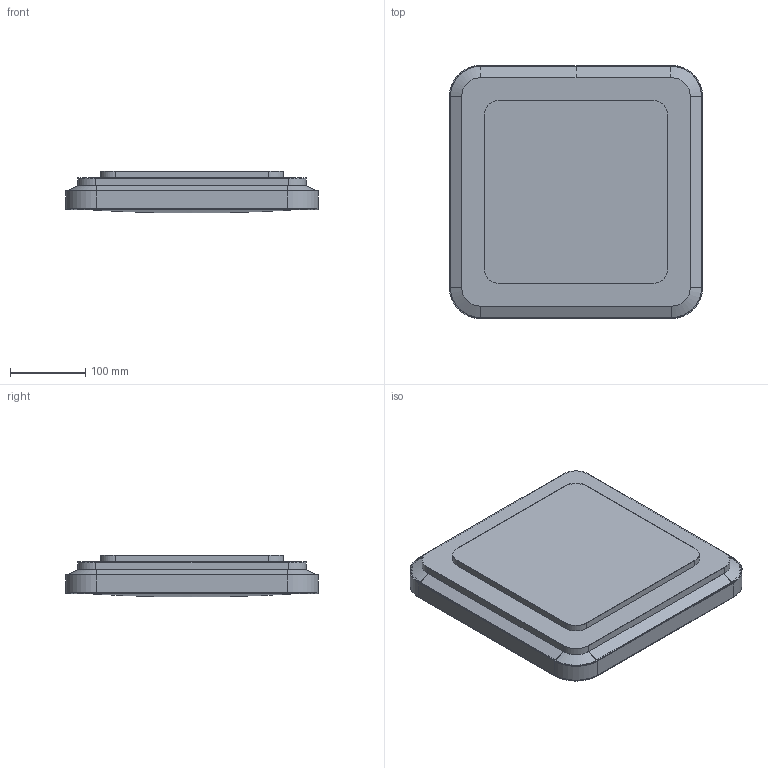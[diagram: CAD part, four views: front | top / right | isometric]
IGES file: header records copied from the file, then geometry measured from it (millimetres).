
Start section: SolidWorks IGES file using analytic representation for surfaces
Global section: file name: X:\PRODUKT\Modele 3D_WWW\_KOLEKCJE WWW\AGNES\AGNES-SQUARE-LED-8112-8108-8135-8138\AGNES-SQUARE-LED-8112-8108-8135-8138.IGS; native system: SolidWorks 2021; preprocessor: SolidWorks 2021; author: gabriela.tworek; date: 220830.130821; units: millimetre
Bounding box: 337 x 337 x 55.62 mm (x, y, z)
Surface area: 584379.4 mm2 (no closed solid volume)
Topology: 0 solids, 0 shells, 165 faces, 727 edges, 723 vertices
Faces by surface type: bspline 119, revolution 46
